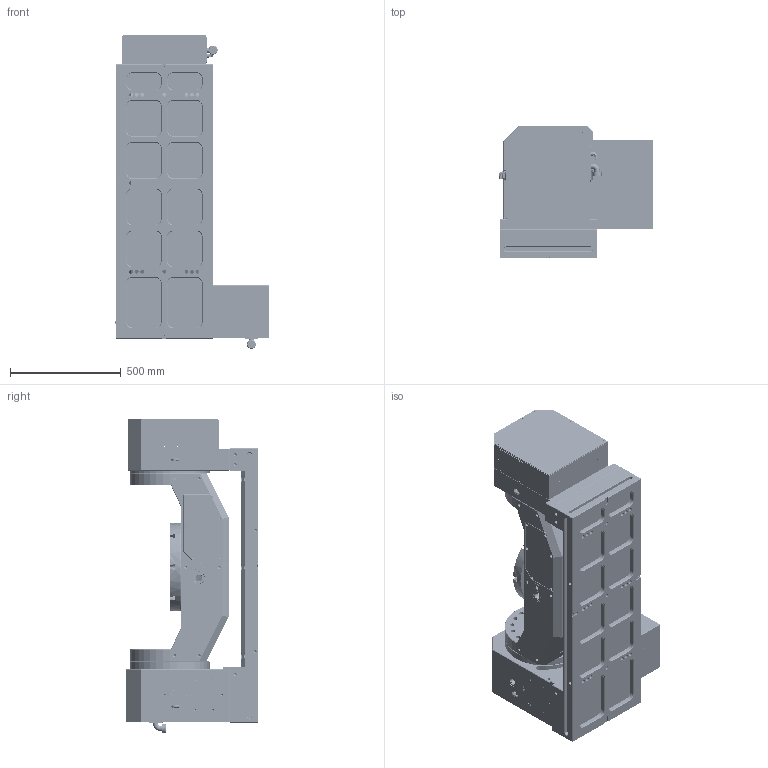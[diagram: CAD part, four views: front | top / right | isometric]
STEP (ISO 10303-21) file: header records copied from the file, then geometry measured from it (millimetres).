
FILE_DESCRIPTION (( 'STEP AP203' ), '1' );
FILE_NAME ('WDS-RT400 喜渡俋夤芞 REV.01.STEP', '2022-09-21T05:39:13', ( '' ), ( '' ), 'SwSTEP 2.0', 'SolidWorks 2021', '' );
FILE_SCHEMA (( 'CONFIG_CONTROL_DESIGN' ));
Products named in the file (1): WDS-RT400 喜渡俋夤芞 REV.01
Bounding box: 696 x 600 x 1417.5 mm (x, y, z)
Volume: 165824260.1 mm3; surface area: 8128115.3 mm2
Topology: 21 solids, 48 shells, 3981 faces, 9315 edges, 5620 vertices
Faces by surface type: cylinder 1820, plane 1234, cone 786, torus 125, bspline 16
Entity records: 116637 total; most frequent: CARTESIAN_POINT 23681, DIRECTION 20828, ORIENTED_EDGE 17950, EDGE_CURVE 8975, AXIS2_PLACEMENT_3D 8156, VERTEX_POINT 5620, EDGE_LOOP 4927, LINE 4516
